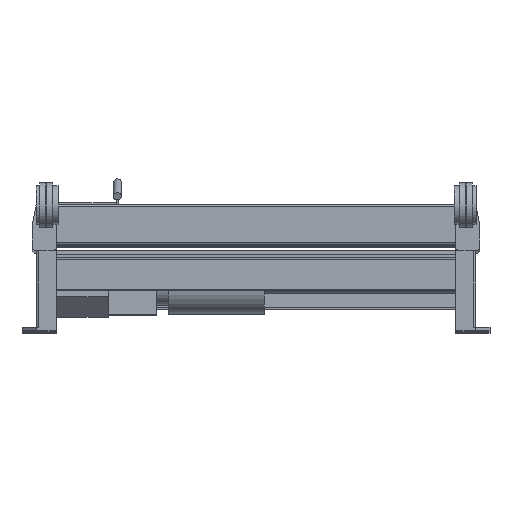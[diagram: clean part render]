
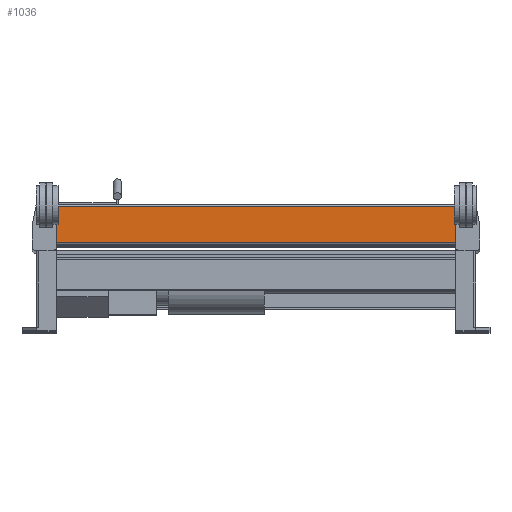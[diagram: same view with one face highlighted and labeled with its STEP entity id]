
A CAD part, top view. The second image highlights one B-rep face of the part: STEP entity #1036.
In plain terms, the highlighted planar face has unit normal (0, 0, 1).
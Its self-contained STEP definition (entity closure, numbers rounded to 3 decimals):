
#979=CARTESIAN_POINT('',(499.,20.,-225.));
#980=VERTEX_POINT('',#979);
#988=CARTESIAN_POINT('',(-499.,20.,-225.));
#989=VERTEX_POINT('',#988);
#990=CARTESIAN_POINT('',(-499.,20.,-225.));
#991=DIRECTION('',(1.0,0.0,0.0));
#992=VECTOR('',#991,998.);
#993=LINE('',#990,#992);
#994=EDGE_CURVE('',#989,#980,#993,.T.);
#1006=CARTESIAN_POINT('',(0.0,110.,-225.));
#1007=DIRECTION('',(0.0,0.0,1.0));
#1008=DIRECTION('',(0.0,-1.0,0.0));
#1009=AXIS2_PLACEMENT_3D('',#1006,#1007,#1008);
#1010=PLANE('',#1009);
#1011=ORIENTED_EDGE('',*,*,#994,.T.);
#1012=CARTESIAN_POINT('',(499.,110.,-225.));
#1013=VERTEX_POINT('',#1012);
#1014=CARTESIAN_POINT('',(499.,110.,-225.));
#1015=DIRECTION('',(0.0,-1.0,0.0));
#1016=VECTOR('',#1015,90.);
#1017=LINE('',#1014,#1016);
#1018=EDGE_CURVE('',#1013,#980,#1017,.T.);
#1019=ORIENTED_EDGE('',*,*,#1018,.F.);
#1020=CARTESIAN_POINT('',(-499.,110.,-225.));
#1021=VERTEX_POINT('',#1020);
#1022=CARTESIAN_POINT('',(-499.,110.,-225.));
#1023=DIRECTION('',(1.0,0.0,0.0));
#1024=VECTOR('',#1023,998.);
#1025=LINE('',#1022,#1024);
#1026=EDGE_CURVE('',#1021,#1013,#1025,.T.);
#1027=ORIENTED_EDGE('',*,*,#1026,.F.);
#1028=CARTESIAN_POINT('',(-499.,20.,-225.));
#1029=DIRECTION('',(0.0,1.0,0.0));
#1030=VECTOR('',#1029,90.);
#1031=LINE('',#1028,#1030);
#1032=EDGE_CURVE('',#989,#1021,#1031,.T.);
#1033=ORIENTED_EDGE('',*,*,#1032,.F.);
#1034=EDGE_LOOP('',(#1011,#1019,#1027,#1033));
#1035=FACE_OUTER_BOUND('',#1034,.T.);
#1036=ADVANCED_FACE('',(#1035),#1010,.T.);
